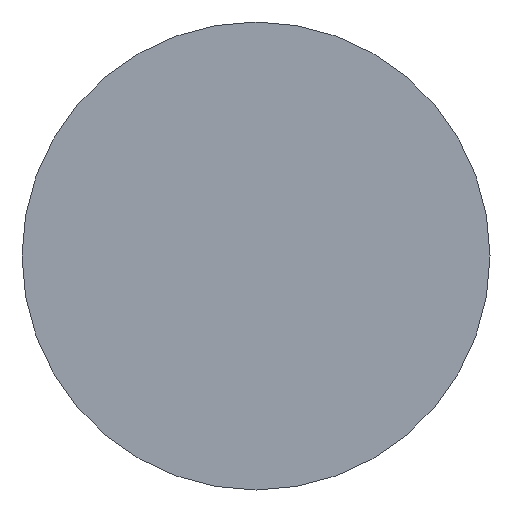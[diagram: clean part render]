
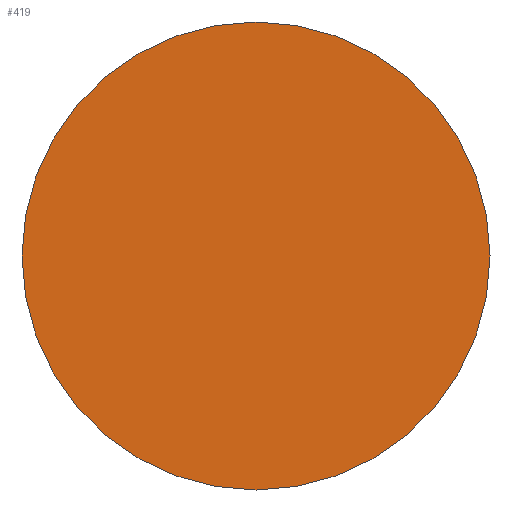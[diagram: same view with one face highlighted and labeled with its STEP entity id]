
A CAD part, front view. The second image highlights one B-rep face of the part: STEP entity #419.
In plain terms, the highlighted planar face has unit normal (0, -1, 0).
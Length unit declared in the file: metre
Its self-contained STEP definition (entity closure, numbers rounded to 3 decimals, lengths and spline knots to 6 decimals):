
#105=PLANE('',#516);
#153=ORIENTED_EDGE('',*,*,#229,.F.);
#229=EDGE_CURVE('',#273,#273,#301,.T.);
#273=VERTEX_POINT('',#775);
#301=CIRCLE('',#515,0.0225);
#335=EDGE_LOOP('',(#153));
#375=FACE_BOUND('',#335,.T.);
#419=ADVANCED_FACE('',(#375),#105,.F.);
#515=AXIS2_PLACEMENT_3D('',#774,#600,#601);
#516=AXIS2_PLACEMENT_3D('',#776,#602,#603);
#600=DIRECTION('',(0.,1.,0.));
#601=DIRECTION('',(0.,0.,1.));
#602=DIRECTION('',(0.,1.,0.));
#603=DIRECTION('',(0.,0.,1.));
#774=CARTESIAN_POINT('',(0.,0.,0.));
#775=CARTESIAN_POINT('',(0.,0.,0.0225));
#776=CARTESIAN_POINT('',(-0.01125,0.,0.));
